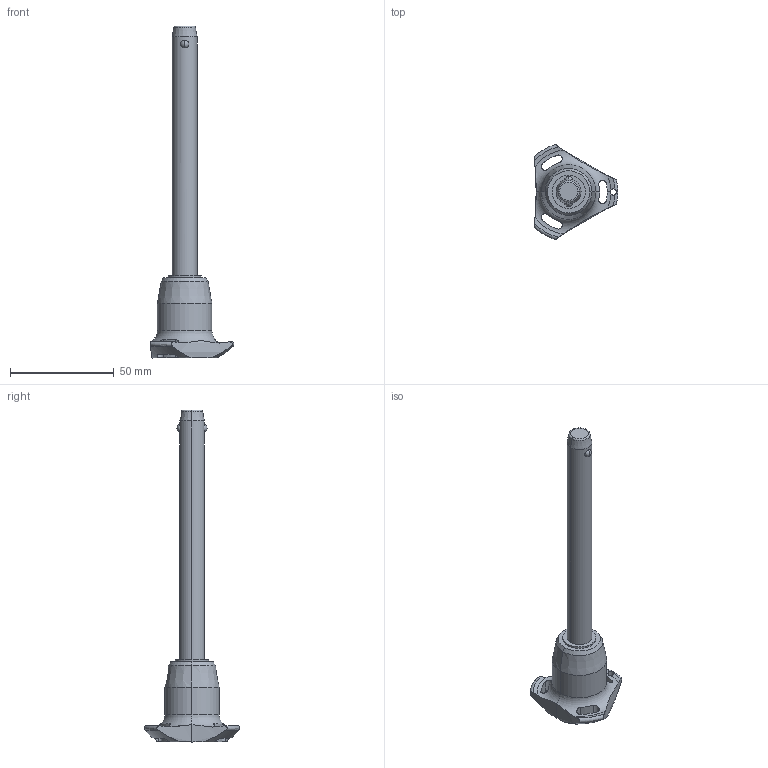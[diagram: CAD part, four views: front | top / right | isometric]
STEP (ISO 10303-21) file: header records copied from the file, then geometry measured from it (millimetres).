
FILE_DESCRIPTION (( 'STEP AP203' ), '1' );
FILE_NAME ('QR1714.M12-110-S.step', '2025-11-12T10:18:05', ( '' ), ( '' ), 'SwSTEP 2.0', 'SolidWorks 2019', '' );
FILE_SCHEMA (( 'CONFIG_CONTROL_DESIGN' ));
Length unit declared in the file: millimetre
Products named in the file (1): QR1714.M12-110-S
Bounding box: 40.5 x 45.88 x 160.3 mm (x, y, z)
Volume: 35575.9 mm3; surface area: 10484.5 mm2
Topology: 1 solids, 1 shells, 65 faces, 178 edges, 113 vertices
Faces by surface type: cylinder 30, cone 14, torus 11, sphere 6, plane 4
Entity records: 2862 total; most frequent: CARTESIAN_POINT 1173, ORIENTED_EDGE 356, DIRECTION 329, EDGE_CURVE 178, AXIS2_PLACEMENT_3D 147, VERTEX_POINT 113, CIRCLE 81, EDGE_LOOP 71
